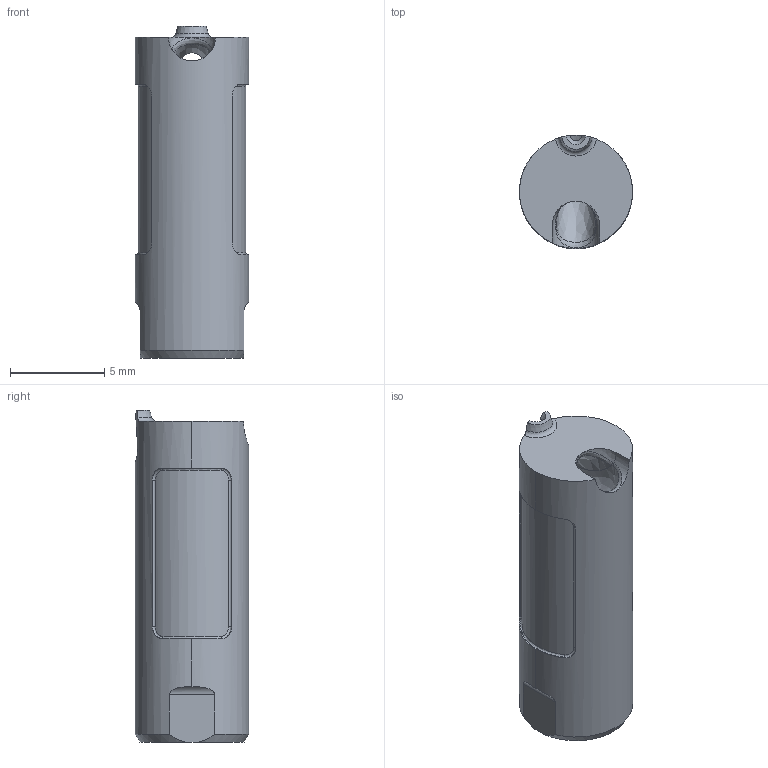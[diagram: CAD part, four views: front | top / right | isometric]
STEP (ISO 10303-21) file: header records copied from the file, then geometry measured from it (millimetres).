
FILE_DESCRIPTION((''),'2;1');
FILE_NAME('TGR6-06-S2','2007-11-26T',('tmeister'),(''),'PRO/ENGINEER BY PARAMETRIC TECHNOLOGY CORPORATION, 2002390','PRO/ENGINEER BY PARAMETRIC TECHNOLOGY CORPORATION, 2002390','');
FILE_SCHEMA(('CONFIG_CONTROL_DESIGN'));
Length unit declared in the file: millimetre
Products named in the file (1): TGR6-06-S2
Bounding box: 6 x 6 x 17.6 mm (x, y, z)
Volume: 339.3 mm3; surface area: 663 mm2
Topology: 1 solids, 2 shells, 74 faces, 330 edges, 256 vertices
Faces by surface type: cylinder 25, bspline 20, plane 15, cone 8, sphere 3, torus 3
Entity records: 5989 total; most frequent: CARTESIAN_POINT 3720, DIRECTION 422, ORIENTED_EDGE 372, EDGE_CURVE 187, AXIS2_PLACEMENT_3D 164, COMPOSITE_CURVE_SEGMENT 140, B_SPLINE_CURVE_WITH_KNOTS 124, VERTEX_POINT 116
